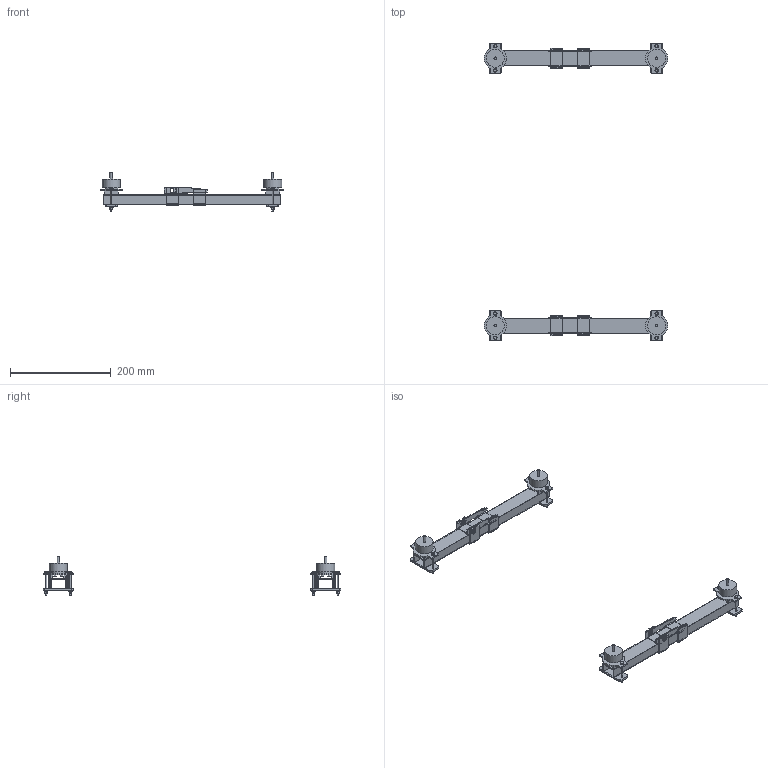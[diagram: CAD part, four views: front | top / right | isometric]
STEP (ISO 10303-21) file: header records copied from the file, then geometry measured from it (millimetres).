
FILE_DESCRIPTION(('FreeCAD Model'),'2;1');
FILE_NAME('Open CASCADE Shape Model','2026-10-23T16:29:25',('FreeCAD'),( 'FreeCAD'),'Open CASCADE STEP processor 7.8','FreeCAD','Unknown');
FILE_SCHEMA(('AUTOMOTIVE_DESIGN { 1 0 10303 214 1 1 1 1 }'));
Products named in the file (1): Open CASCADE STEP translator 7.8 1
Bounding box: 363.92 x 590 x 78 mm (x, y, z)
Volume: 234727.9 mm3; surface area: 279647.6 mm2
Topology: 162 solids, 162 shells, 1294 faces, 2686 edges, 1756 vertices
Faces by surface type: plane 940, cylinder 208, extrusion 56, cone 48, bspline 42
Full cylindrical faces by diameter (mm): 3 x48, 3.2 x32, 3.4 x32, 5 x4, 5.5 x24, 7 x32, 10 x4, 25.5 x4, 35.4 x4
Entity records: 63010 total; most frequent: CARTESIAN_POINT 35661, ORIENTED_EDGE 5372, DIRECTION 5342, EDGE_CURVE 2686, VECTOR 1832, LINE 1776, VERTEX_POINT 1756, AXIS2_PLACEMENT_3D 1755
